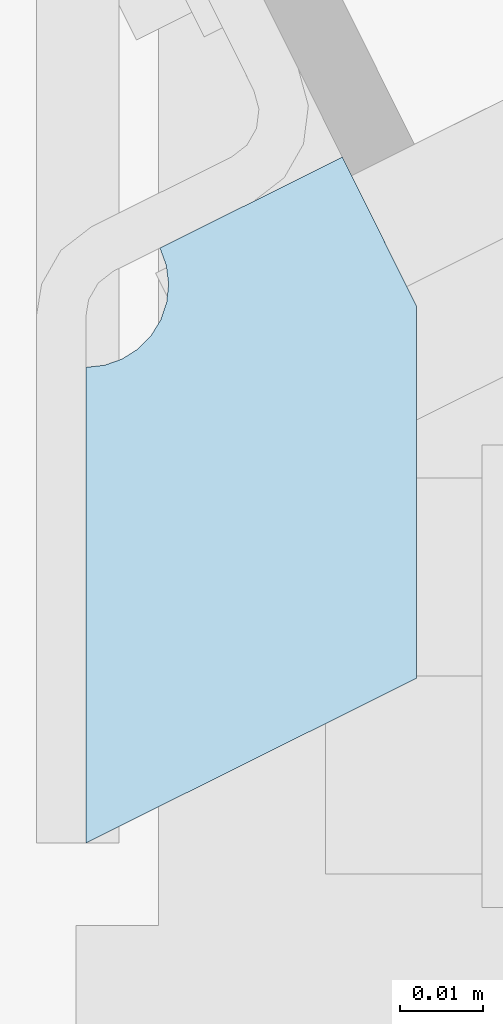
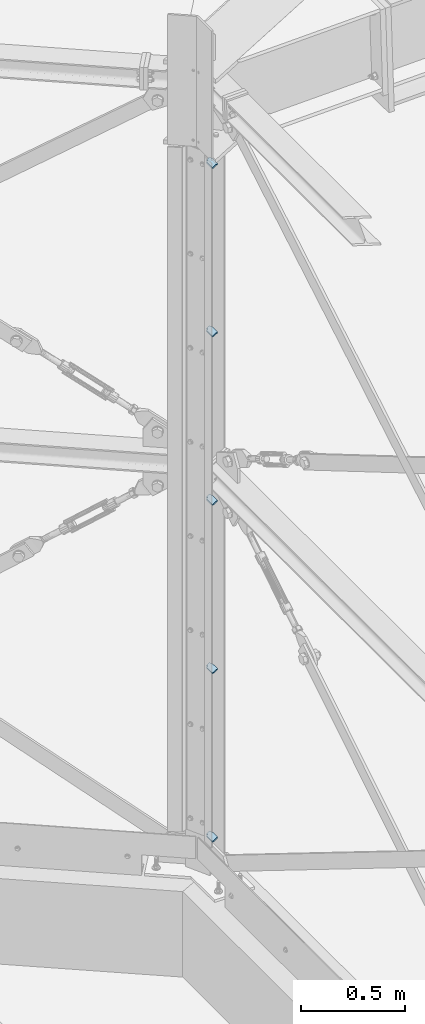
# One storey, part 75 of 476: 5 plates, 5 openings.
"""IFC2X3 building model written with IfcOpenShell, lengths in millimetres."""

from ifc_helpers import new_model, entity, si_unit, converted_unit, point, frame, origin, origin_with_axes, origin_2d_with_axis, place, context, project, spatial, polyline, circle_curve, line_curve, trimmed, segment, composite_curve, outline, extrude, material, layer, layer_set, element, save


model = new_model("IFC2X3")

# Units and contexts
model_context = context("Model", 3, precision=1e-09, world=origin_with_axes())
ifc_project = project(units=[si_unit("LENGTHUNIT", "METRE", prefix="MILLI"), si_unit("AREAUNIT", "SQUARE_METRE"), si_unit("VOLUMEUNIT", "CUBIC_METRE"), converted_unit("PLANEANGLEUNIT", "DEGREE", entity("IfcPlaneAngleMeasure", 0.01745329), si_unit("PLANEANGLEUNIT", "RADIAN"), dimensions=[0, 0, 0, 0, 0, 0, 0])], contexts=[model_context])

# Site, building, storey
site_placement = place(None, origin_with_axes())
site = spatial("IfcSite", under=ifc_project, at=site_placement, Name="mKR Teilneubau & Sanierung BA1 - Ostfildern", CompositionType="ELEMENT")
building_placement = place(site_placement, origin_with_axes())
building = spatial("IfcBuilding", under=site, at=building_placement, Name="Struktur 1", CompositionType="ELEMENT")
storey_placement = place(building_placement, origin_with_axes())
storey = spatial("IfcBuildingStorey", under=building, at=storey_placement, Name="Default Storey", CompositionType="ELEMENT", Elevation=0.0)

# Plate, opening
ifc_material = material(Name="S235JR")
ifc_layer = layer(ifc_material, 8.0)
ifc_layer_set = layer_set([ifc_layer], Name="S235JR")
plate_1_placement = place(None, frame((8105.131262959, -6121.791720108, 2775.123108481), z_axis=(1.18e-07, 0.0, 1.0), x_axis=(0.895163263, 0.445738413, -1.32e-07)))
plate_1 = element("IfcPlate", 1, at=plate_1_placement, inside=storey, material=ifc_layer_set, Name="-", ObjectType="-", context=model_context, shape_type="SweptSolid", body=[
    extrude(outline(polyline([(0.0, 0.0), (44.681799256, 0.0), (64.80213993, 40.419774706), (64.80213993, 60.511176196), (30.121530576, 60.511176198), (0.0, 0.0)])), origin_with_axes(), (0.0, 0.0, -1.0), 8.0),
])
opening_1_placement = place(plate_1_placement, frame((30.121530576, 60.511176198, 0.01), z_axis=(0.0, 0.0, 1.0), x_axis=(-0.445626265, -0.895219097, 0.0)))
element("IfcOpeningElement", 2, at=opening_1_placement, cuts=plate_1, ObjectType="Opening", context=model_context, shape_type="SweptSolid", body=[
    extrude(outline(composite_curve([segment(trimmed(line_curve((0.0, 0.0), (1.0, 0.0), 10.0), [point((0.0, 0.0))], [point((10.0, 0.0))], True, "CARTESIAN"), True, "CONTINUOUS"), segment(trimmed(circle_curve(origin_2d_with_axis(), 10.0), [point((10.0, 0.0))], [point((-4.456262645, 8.952190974))], True, "CARTESIAN"), True, "CONTINUOUS"), segment(trimmed(line_curve((-4.456262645, 8.952190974), (0.445626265, -0.895219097), 10.0), [point((-4.456262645, 8.952190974))], [point((0.0, 0.0))], True, "CARTESIAN"), True, "CONTINUOUS")], self_intersect=False)), origin(), (0.0, 0.0, -1.0), 8.02),
])

plate_2_placement = place(None, frame((8105.13103022, -6121.791835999, 805.123108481), z_axis=(1.18e-07, 0.0, 1.0), x_axis=(0.895163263, 0.445738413, -1.32e-07)))
plate_2 = element("IfcPlate", 3, at=plate_2_placement, inside=storey, material=ifc_layer_set, Name="-", ObjectType="-", context=model_context, shape_type="SweptSolid", body=[
    extrude(outline(polyline([(0.0, 0.0), (44.681799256, 0.0), (64.80213993, 40.419774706), (64.80213993, 60.511176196), (30.121530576, 60.511176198), (0.0, 0.0)])), origin_with_axes(), (0.0, 0.0, -1.0), 8.0),
])
opening_2_placement = place(plate_2_placement, frame((30.121530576, 60.511176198, 0.01), z_axis=(0.0, 0.0, 1.0), x_axis=(-0.445626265, -0.895219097, 0.0)))
element("IfcOpeningElement", 4, at=opening_2_placement, cuts=plate_2, ObjectType="Opening", context=model_context, shape_type="SweptSolid", body=[
    extrude(outline(composite_curve([segment(trimmed(line_curve((0.0, 0.0), (1.0, 0.0), 10.0), [point((0.0, 0.0))], [point((10.0, 0.0))], True, "CARTESIAN"), True, "CONTINUOUS"), segment(trimmed(circle_curve(origin_2d_with_axis(), 10.0), [point((10.0, 0.0))], [point((-4.456262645, 8.952190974))], True, "CARTESIAN"), True, "CONTINUOUS"), segment(trimmed(line_curve((-4.456262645, 8.952190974), (0.445626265, -0.895219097), 10.0), [point((-4.456262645, 8.952190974))], [point((0.0, 0.0))], True, "CARTESIAN"), True, "CONTINUOUS")], self_intersect=False)), origin(), (0.0, 0.0, -1.0), 8.02),
])

plate_3_placement = place(None, frame((8105.131495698, -6121.791604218, 4745.123108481), z_axis=(1.18e-07, 0.0, 1.0), x_axis=(0.895163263, 0.445738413, -1.32e-07)))
plate_3 = element("IfcPlate", 5, at=plate_3_placement, inside=storey, material=ifc_layer_set, Name="-", ObjectType="-", context=model_context, shape_type="SweptSolid", body=[
    extrude(outline(polyline([(0.0, 0.0), (44.681799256, 0.0), (64.80213993, 40.419774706), (64.80213993, 60.511176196), (30.121530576, 60.511176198), (0.0, 0.0)])), origin_with_axes(), (0.0, 0.0, -1.0), 8.0),
])
opening_3_placement = place(plate_3_placement, frame((30.121530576, 60.511176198, 0.01), z_axis=(0.0, 0.0, 1.0), x_axis=(-0.445626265, -0.895219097, 0.0)))
element("IfcOpeningElement", 6, at=opening_3_placement, cuts=plate_3, ObjectType="Opening", context=model_context, shape_type="SweptSolid", body=[
    extrude(outline(composite_curve([segment(trimmed(line_curve((0.0, 0.0), (1.0, 0.0), 10.0), [point((0.0, 0.0))], [point((10.0, 0.0))], True, "CARTESIAN"), True, "CONTINUOUS"), segment(trimmed(circle_curve(origin_2d_with_axis(), 10.0), [point((10.0, 0.0))], [point((-4.456262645, 8.952190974))], True, "CARTESIAN"), True, "CONTINUOUS"), segment(trimmed(line_curve((-4.456262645, 8.952190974), (0.445626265, -0.895219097), 10.0), [point((-4.456262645, 8.952190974))], [point((0.0, 0.0))], True, "CARTESIAN"), True, "CONTINUOUS")], self_intersect=False)), origin(), (0.0, 0.0, -1.0), 8.02),
])

plate_4_placement = place(None, frame((8105.131379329, -6121.791662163, 3760.123108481), z_axis=(1.18e-07, 0.0, 1.0), x_axis=(0.895163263, 0.445738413, -1.32e-07)))
plate_4 = element("IfcPlate", 7, at=plate_4_placement, inside=storey, material=ifc_layer_set, Name="-", ObjectType="-", context=model_context, shape_type="SweptSolid", body=[
    extrude(outline(polyline([(0.0, 0.0), (44.681799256, 0.0), (64.80213993, 40.419774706), (64.80213993, 60.511176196), (30.121530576, 60.511176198), (0.0, 0.0)])), origin_with_axes(), (0.0, 0.0, -1.0), 8.0),
])
opening_4_placement = place(plate_4_placement, frame((30.121530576, 60.511176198, 0.01), z_axis=(0.0, 0.0, 1.0), x_axis=(-0.445626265, -0.895219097, 0.0)))
element("IfcOpeningElement", 8, at=opening_4_placement, cuts=plate_4, ObjectType="Opening", context=model_context, shape_type="SweptSolid", body=[
    extrude(outline(composite_curve([segment(trimmed(line_curve((0.0, 0.0), (1.0, 0.0), 10.0), [point((0.0, 0.0))], [point((10.0, 0.0))], True, "CARTESIAN"), True, "CONTINUOUS"), segment(trimmed(circle_curve(origin_2d_with_axis(), 10.0), [point((10.0, 0.0))], [point((-4.456262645, 8.952190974))], True, "CARTESIAN"), True, "CONTINUOUS"), segment(trimmed(line_curve((-4.456262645, 8.952190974), (0.445626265, -0.895219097), 10.0), [point((-4.456262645, 8.952190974))], [point((0.0, 0.0))], True, "CARTESIAN"), True, "CONTINUOUS")], self_intersect=False)), origin(), (0.0, 0.0, -1.0), 8.02),
])

plate_5_placement = place(None, frame((8105.13114659, -6121.791778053, 1790.123108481), z_axis=(1.18e-07, 0.0, 1.0), x_axis=(0.895163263, 0.445738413, -1.32e-07)))
plate_5 = element("IfcPlate", 9, at=plate_5_placement, inside=storey, material=ifc_layer_set, Name="-", ObjectType="-", context=model_context, shape_type="SweptSolid", body=[
    extrude(outline(polyline([(0.0, 0.0), (44.681799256, 0.0), (64.80213993, 40.419774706), (64.80213993, 60.511176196), (30.121530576, 60.511176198), (0.0, 0.0)])), origin_with_axes(), (0.0, 0.0, -1.0), 8.0),
])
opening_5_placement = place(plate_5_placement, frame((30.121530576, 60.511176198, 0.01), z_axis=(0.0, 0.0, 1.0), x_axis=(-0.445626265, -0.895219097, 0.0)))
element("IfcOpeningElement", 10, at=opening_5_placement, cuts=plate_5, ObjectType="Opening", context=model_context, shape_type="SweptSolid", body=[
    extrude(outline(composite_curve([segment(trimmed(line_curve((0.0, 0.0), (1.0, 0.0), 10.0), [point((0.0, 0.0))], [point((10.0, 0.0))], True, "CARTESIAN"), True, "CONTINUOUS"), segment(trimmed(circle_curve(origin_2d_with_axis(), 10.0), [point((10.0, 0.0))], [point((-4.456262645, 8.952190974))], True, "CARTESIAN"), True, "CONTINUOUS"), segment(trimmed(line_curve((-4.456262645, 8.952190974), (0.445626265, -0.895219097), 10.0), [point((-4.456262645, 8.952190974))], [point((0.0, 0.0))], True, "CARTESIAN"), True, "CONTINUOUS")], self_intersect=False)), origin(), (0.0, 0.0, -1.0), 8.02),
])

save(model, "model.ifc")
